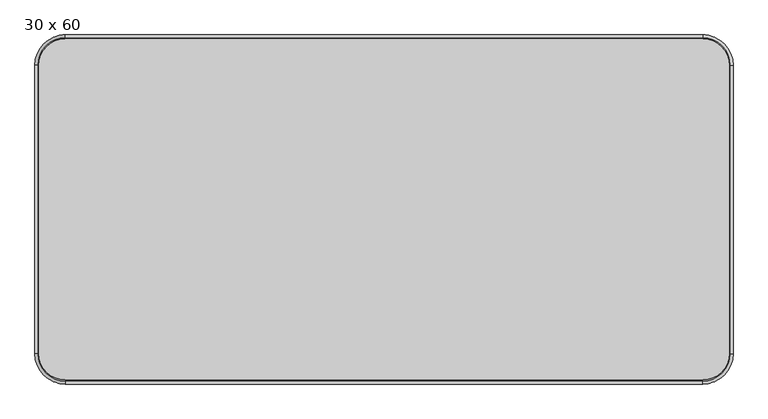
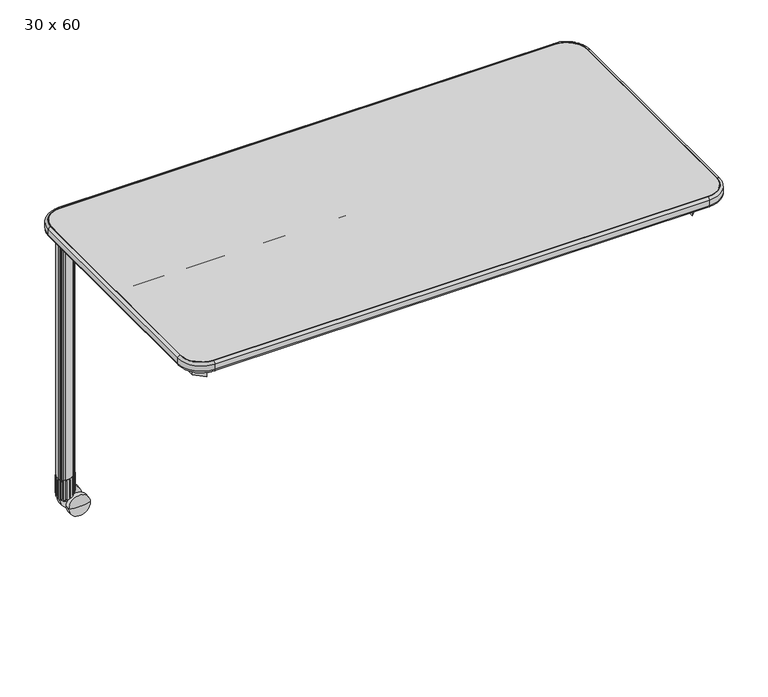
"""IFC4 building model written with IfcOpenShell, lengths in millimetres: furniture geometry, SmithSystem_AM_Desking_Education_Interchange_Student_Activity : 30 x 60."""

from ifc_helpers import new_model, si_unit, point, frame, frame_2d, origin, place, context, project, spatial, polyline, circle_curve, ellipse_curve, trimmed, segment, composite_curve, outline, extrude, source, transform, mapped, element, save
from ifc_brep_helpers import plane_surface, cylinder_surface, revolved_surface, advanced_brep


def furniture_30_x_60_a9b783f6(model_context):
    return source(origin(), model_context, "Body", "SolidModel", [
        advanced_brep(
        [(44.3181701, -75.4828432, 35.017382), (74.620827, -75.4828432, 35.017382), (104.9234839, -75.4828432, 35.017382), (74.620827, -93.8056302, 35.017382), (44.3181701, -88.7241133, 35.017382), (104.9234839, -88.7241133, 35.017382)],
        [
            (0, 1),
            (1, 2),
            (2, 0, circle_curve(frame((74.620827, -75.4828432, 35.017382), z_axis=(0.0, 1.0, 0.0), x_axis=(1.0000000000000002, 0.0, 0.0)), 30.3026569)),
            (0, 2, circle_curve(frame((74.620827, -75.4828432, 35.017382), z_axis=(0.0, 1.0, 0.0), x_axis=(1.0000000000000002, 0.0, 0.0)), 30.3026569)),
            (3, 4, circle_curve(frame((74.620827, -0.9128138, 35.017382), z_axis=(0.0, 0.0, -1.0000000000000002), x_axis=(0.0, 1.0, 0.0)), 92.8928164)),
            (4, 5, circle_curve(frame((74.620827, -88.7241133, 35.017382), z_axis=(0.0, -1.0, 0.0), x_axis=(1.0000000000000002, 0.0, 0.0)), 30.3026569)),
            (5, 3, circle_curve(frame((74.620827, -0.9128138, 35.017382), z_axis=(0.0, 0.0, -1.0000000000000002), x_axis=(0.0, 1.0, 0.0)), 92.8928164)),
            (5, 4, circle_curve(frame((74.620827, -88.7241133, 35.017382), z_axis=(0.0, -1.0, 0.0), x_axis=(1.0000000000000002, 0.0, 0.0)), 30.3026569)),
            (4, 0),
            (2, 5),
        ],
        [
            plane_surface(frame((74.620827, -75.4828432, 35.017382), z_axis=(0.0, 1.0, 0.0), x_axis=(1.0, 0.0, 0.0))),
            revolved_surface(trimmed(ellipse_curve(frame((74.620827, -0.9128138, 35.017382), z_axis=(0.0, 0.0, -1.0000000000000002), x_axis=(0.0, 1.0, 0.0)), 92.8928164, 92.8928164), [point((104.9234839, -88.7241133, 35.017382))], [point((74.620827, -93.8056302, 35.017382))], True, "CARTESIAN"), (74.620827, -75.4828432, 35.017382), (0.0, -1.0, 0.0)),
            cylinder_surface(frame((74.620827, -75.4828432, 35.017382), z_axis=(0.0, -1.0, 0.0), x_axis=(1.0000000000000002, 0.0, 0.0)), 30.3026569),
        ],
        [
            (0, [[1, 2, 3]]),
            (0, [[-2, -1, 4]]),
            (1, [[5, 6, 7]]),
            (1, [[-7, 8, -5]]),
            (2, [[9, -3, 10, -6]]),
            (2, [[-10, -4, -9, -8]]),
        ],
    ),
        advanced_brep(
        [(44.3181701, -44.8805061, 35.017382), (44.3181701, -31.639236, 35.017382), (104.9234839, -31.639236, 35.017382), (104.9234839, -44.8805061, 35.017382), (74.620827, -26.5577191, 35.017382), (74.620827, -44.8805061, 35.017382)],
        [
            (0, 1),
            (1, 2, circle_curve(frame((74.620827, -31.639236, 35.017382), z_axis=(0.0, -1.0, 0.0), x_axis=(1.0000000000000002, 0.0, 0.0)), 30.3026569)),
            (2, 3),
            (3, 0, circle_curve(frame((74.620827, -44.8805061, 35.017382), z_axis=(0.0, 1.0, 0.0), x_axis=(1.0000000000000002, 0.0, 0.0)), 30.3026569)),
            (2, 1, circle_curve(frame((74.620827, -31.639236, 35.017382), z_axis=(0.0, -1.0, 0.0), x_axis=(1.0000000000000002, 0.0, 0.0)), 30.3026569)),
            (0, 3, circle_curve(frame((74.620827, -44.8805061, 35.017382), z_axis=(0.0, 1.0, 0.0), x_axis=(1.0000000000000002, 0.0, 0.0)), 30.3026569)),
            (1, 4, circle_curve(frame((74.620827, -119.4505355, 35.017382), z_axis=(0.0, 0.0, -1.0000000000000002), x_axis=(0.0, 1.0, 0.0)), 92.8928164)),
            (4, 2, circle_curve(frame((74.620827, -119.4505355, 35.017382), z_axis=(0.0, 0.0, -1.0000000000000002), x_axis=(0.0, 1.0, 0.0)), 92.8928164)),
            (5, 0),
            (3, 5),
        ],
        [
            cylinder_surface(frame((74.620827, -75.4828432, 35.017382), z_axis=(0.0, -1.0, 0.0), x_axis=(1.0000000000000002, 0.0, 0.0)), 30.3026569),
            revolved_surface(trimmed(ellipse_curve(frame((74.620827, -119.4505355, 35.017382), z_axis=(0.0, 0.0, -1.0000000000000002), x_axis=(0.0, 1.0, 0.0)), 92.8928164, 92.8928164), [point((74.620827, -26.5577191, 35.017382))], [point((104.9234839, -31.639236, 35.017382))], True, "CARTESIAN"), (74.620827, -75.4828432, 35.017382), (0.0, -1.0, 0.0)),
            plane_surface(frame((74.620827, -44.8805061, 35.017382), z_axis=(0.0, -1.0, 0.0), x_axis=(1.0, 0.0, 0.0))),
        ],
        [
            (0, [[1, 2, 3, 4]]),
            (0, [[-3, 5, -1, 6]]),
            (1, [[7, 8, -2]]),
            (1, [[-8, -7, -5]]),
            (2, [[9, -4, 10]]),
            (2, [[-10, -6, -9]]),
        ],
    ),
        advanced_brep(
        [(51.3766004, -59.5614841, 82.55), (36.2549111, -44.4397948, 82.55), (66.4982897, -74.6831734, 82.55), (44.5409023, -52.725786, 44.141232), (51.3766004, -59.5614841, 44.141232), (58.2122984, -66.3971821, 44.141232), (44.5409023, -52.725786, 70.5739), (58.2122984, -66.3971821, 70.5739), (48.2776927, -56.4625764, 70.5739), (54.475508, -62.6603917, 70.5739), (48.2776927, -56.4625764, 72.4789), (54.475508, -62.6603917, 72.4789), (44.5409023, -52.725786, 72.4789), (58.2122984, -66.3971821, 72.4789), (44.5409023, -52.725786, 77.5589), (58.2122984, -66.3971821, 77.5589), (36.2549111, -44.4397948, 77.5589), (66.4982897, -74.6831734, 77.5589)],
        [
            (0, 1),
            (1, 2, circle_curve(frame((51.3766004, -59.5614841, 82.55), z_axis=(0.0, 0.0, 1.0), x_axis=(0.7071067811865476, -0.7071067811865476, 0.0)), 21.3852981)),
            (2, 0),
            (2, 1, circle_curve(frame((51.3766004, -59.5614841, 82.55), z_axis=(0.0, 0.0, 1.0), x_axis=(0.7071067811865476, -0.7071067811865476, 0.0)), 21.3852981)),
            (3, 4),
            (4, 5),
            (5, 3, circle_curve(frame((51.3766004, -59.5614841, 44.141232), z_axis=(0.0, 0.0, -1.0), x_axis=(0.7071067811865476, -0.7071067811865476, 0.0)), 9.6671369)),
            (3, 5, circle_curve(frame((51.3766004, -59.5614841, 44.141232), z_axis=(0.0, 0.0, -1.0), x_axis=(0.7071067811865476, -0.7071067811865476, 0.0)), 9.6671369)),
            (6, 3),
            (5, 7),
            (7, 6, circle_curve(frame((51.3766004, -59.5614841, 70.5739), z_axis=(0.0, 0.0, -1.0), x_axis=(0.7071067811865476, -0.7071067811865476, 0.0)), 9.6671369)),
            (6, 7, circle_curve(frame((51.3766004, -59.5614841, 70.5739), z_axis=(0.0, 0.0, -1.0), x_axis=(0.7071067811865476, -0.7071067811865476, 0.0)), 9.6671369)),
            (8, 6),
            (7, 9),
            (9, 8, circle_curve(frame((51.3766004, -59.5614841, 70.5739), z_axis=(0.0, 0.0, -1.0), x_axis=(0.7071067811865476, -0.7071067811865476, 0.0)), 4.3825172)),
            (8, 9, circle_curve(frame((51.3766004, -59.5614841, 70.5739), z_axis=(0.0, 0.0, -1.0), x_axis=(0.7071067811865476, -0.7071067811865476, 0.0)), 4.3825172)),
            (10, 8),
            (9, 11),
            (11, 10, circle_curve(frame((51.3766004, -59.5614841, 72.4789), z_axis=(0.0, 0.0, -1.0), x_axis=(0.7071067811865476, -0.7071067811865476, 0.0)), 4.3825172)),
            (10, 11, circle_curve(frame((51.3766004, -59.5614841, 72.4789), z_axis=(0.0, 0.0, -1.0), x_axis=(0.7071067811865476, -0.7071067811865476, 0.0)), 4.3825172)),
            (12, 10),
            (11, 13),
            (13, 12, circle_curve(frame((51.3766004, -59.5614841, 72.4789), z_axis=(0.0, 0.0, -1.0), x_axis=(0.7071067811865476, -0.7071067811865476, 0.0)), 9.6671369)),
            (12, 13, circle_curve(frame((51.3766004, -59.5614841, 72.4789), z_axis=(0.0, 0.0, -1.0), x_axis=(0.7071067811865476, -0.7071067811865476, 0.0)), 9.6671369)),
            (14, 12),
            (13, 15),
            (15, 14, circle_curve(frame((51.3766004, -59.5614841, 77.5589), z_axis=(0.0, 0.0, -1.0), x_axis=(0.7071067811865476, -0.7071067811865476, 0.0)), 9.6671369)),
            (14, 15, circle_curve(frame((51.3766004, -59.5614841, 77.5589), z_axis=(0.0, 0.0, -1.0), x_axis=(0.7071067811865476, -0.7071067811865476, 0.0)), 9.6671369)),
            (16, 14),
            (15, 17),
            (17, 16, circle_curve(frame((51.3766004, -59.5614841, 77.5589), z_axis=(0.0, 0.0, -1.0), x_axis=(0.7071067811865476, -0.7071067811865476, 0.0)), 21.3852981)),
            (16, 17, circle_curve(frame((51.3766004, -59.5614841, 77.5589), z_axis=(0.0, 0.0, -1.0), x_axis=(0.7071067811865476, -0.7071067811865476, 0.0)), 21.3852981)),
            (1, 16),
            (17, 2),
        ],
        [
            plane_surface(frame((51.3766004, -59.5614841, 82.55), z_axis=(0.0, 0.0, 1.0000000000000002), x_axis=(0.7071067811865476, -0.7071067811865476, 0.0))),
            plane_surface(frame((51.3766004, -59.5614841, 44.141232), z_axis=(0.0, 0.0, -1.0000000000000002), x_axis=(0.7071067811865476, -0.7071067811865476, 0.0))),
            cylinder_surface(frame((51.3766004, -59.5614841, 56.841232), z_axis=(0.0, 0.0, 1.0), x_axis=(0.7071067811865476, -0.7071067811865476, 0.0)), 9.6671369),
            plane_surface(frame((51.3766004, -59.5614841, 70.5739), z_axis=(0.0, 0.0, 1.0000000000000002), x_axis=(0.7071067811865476, -0.7071067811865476, 0.0))),
            cylinder_surface(frame((51.3766004, -59.5614841, 56.841232), z_axis=(0.0, 0.0, 1.0), x_axis=(0.7071067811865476, -0.7071067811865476, 0.0)), 4.3825172),
            plane_surface(frame((51.3766004, -59.5614841, 72.4789), z_axis=(0.0, 0.0, -1.0000000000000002), x_axis=(0.7071067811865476, -0.7071067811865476, 0.0))),
            plane_surface(frame((51.3766004, -59.5614841, 77.5589), z_axis=(0.0, 0.0, -1.0000000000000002), x_axis=(0.7071067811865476, -0.7071067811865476, 0.0))),
            cylinder_surface(frame((51.3766004, -59.5614841, 56.841232), z_axis=(0.0, 0.0, 1.0), x_axis=(0.7071067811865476, -0.7071067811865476, 0.0)), 21.3852981),
        ],
        [
            (0, [[1, 2, 3]]),
            (0, [[-3, 4, -1]]),
            (1, [[5, 6, 7]]),
            (1, [[-6, -5, 8]]),
            (2, [[9, -7, 10, 11]]),
            (2, [[-10, -8, -9, 12]]),
            (3, [[13, -11, 14, 15]]),
            (3, [[-14, -12, -13, 16]]),
            (4, [[17, -15, 18, 19]]),
            (4, [[-18, -16, -17, 20]]),
            (5, [[21, -19, 22, 23]]),
            (5, [[-22, -20, -21, 24]]),
            (2, [[25, -23, 26, 27]]),
            (2, [[-26, -24, -25, 28]]),
            (6, [[29, -27, 30, 31]]),
            (6, [[-30, -28, -29, 32]]),
            (7, [[33, -31, 34, -2]]),
            (7, [[-34, -32, -33, -4]]),
        ],
    ),
        extrude(outline(composite_curve([segment(polyline([(70.2314777, -71.2321565), (66.6393752, -74.824259), (63.0472728, -78.4163614)]), True, "CONTINUOUS"), segment(trimmed(circle_curve(frame_2d((40.0058161, -55.3749047)), 32.5855406), [point((63.0472728, -78.4163614))], [point((36.0346376, -87.7175576))], False, "CARTESIAN"), True, "CONTINUOUS"), segment(trimmed(circle_curve(frame_2d((38.4323677, -68.1896136)), 19.6745954), [point((36.0346376, -87.7175576))], [point((30.8816174, -86.3576041))], False, "CARTESIAN"), True, "CONTINUOUS"), segment(trimmed(circle_curve(frame_2d((34.3168711, -78.0919809)), 8.9510611), [point((30.8816174, -86.3576041))], [point((27.9875151, -84.4213369))], False, "CARTESIAN"), True, "CONTINUOUS"), segment(polyline([(27.9875151, -84.4213369), (27.2521313, -83.6859531), (26.5167476, -82.9505693)]), True, "CONTINUOUS"), segment(trimmed(circle_curve(frame_2d((32.8461036, -76.6212133)), 8.9510611), [point((26.5167476, -82.9505693))], [point((24.5804804, -80.056467))], False, "CARTESIAN"), True, "CONTINUOUS"), segment(trimmed(circle_curve(frame_2d((42.7484708, -72.5057168)), 19.6745954), [point((24.5804804, -80.056467))], [point((23.2205268, -74.9034468))], False, "CARTESIAN"), True, "CONTINUOUS"), segment(trimmed(circle_curve(frame_2d((55.5631798, -70.9322684)), 32.5855406), [point((23.2205268, -74.9034468))], [point((32.521723, -47.8908116))], False, "CARTESIAN"), True, "CONTINUOUS"), segment(polyline([(32.521723, -47.8908116), (36.1138255, -44.2987092), (39.7059279, -40.7066067)]), True, "CONTINUOUS"), segment(trimmed(circle_curve(frame_2d((62.7473847, -63.7480635)), 32.5855406), [point((39.7059279, -40.7066067))], [point((66.7185631, -31.4054105))], False, "CARTESIAN"), True, "CONTINUOUS"), segment(trimmed(circle_curve(frame_2d((64.3208331, -50.9333545)), 19.6745954), [point((66.7185631, -31.4054105))], [point((71.8715833, -32.7653641))], False, "CARTESIAN"), True, "CONTINUOUS"), segment(trimmed(circle_curve(frame_2d((68.4363296, -41.0309873)), 8.9510611), [point((71.8715833, -32.7653641))], [point((74.7656856, -34.7016313))], False, "CARTESIAN"), True, "CONTINUOUS"), segment(polyline([(74.7656856, -34.7016313), (75.5010694, -35.4370151), (76.2364532, -36.1723988)]), True, "CONTINUOUS"), segment(trimmed(circle_curve(frame_2d((69.9070972, -42.5017548)), 8.9510611), [point((76.2364532, -36.1723988))], [point((78.1727203, -39.0665011))], False, "CARTESIAN"), True, "CONTINUOUS"), segment(trimmed(circle_curve(frame_2d((60.0047299, -46.6172514)), 19.6745954), [point((78.1727203, -39.0665011))], [point((79.5326739, -44.2195213))], False, "CARTESIAN"), True, "CONTINUOUS"), segment(trimmed(circle_curve(frame_2d((47.190021, -48.1906998)), 32.5855406), [point((79.5326739, -44.2195213))], [point((70.2314777, -71.2321565))], False, "CARTESIAN"), True, "CONTINUOUS")], self_intersect=False)), frame((0.0, 0.0, 63.4997351), z_axis=(0.0, 0.0, 1.0), x_axis=(1.0, 0.0, 0.0)), (0.0, 0.0, 1.0), 59.42631),
        extrude(outline(composite_curve([segment(trimmed(circle_curve(frame_2d((36.1138255, -44.2987092)), 1.27), [point((35.2157999, -45.1967348))], [point((37.0118511, -43.4006836))], False, "CARTESIAN"), True, "CONTINUOUS"), segment(polyline([(37.0118511, -43.4006836), (36.1138255, -44.2987092), (35.2157999, -45.1967348)]), True, "CONTINUOUS")], self_intersect=False)), frame((0.0, 0.0, 67.2639757), z_axis=(0.0, 0.0, 1.0), x_axis=(1.0, 0.0, 0.0)), (0.0, 0.0, 1.0), 52.9554897),
        extrude(outline(composite_curve([segment(trimmed(circle_curve(frame_2d((27.2784407, -83.6596437)), 1.27), [point((28.1764663, -84.5576694))], [point((26.3804151, -82.7616181))], False, "CARTESIAN"), True, "CONTINUOUS"), segment(polyline([(26.3804151, -82.7616181), (27.2784407, -83.6596437), (28.1764663, -84.5576694)]), True, "CONTINUOUS")], self_intersect=False)), frame((0.0, 0.0, 67.2639757), z_axis=(0.0, 0.0, 1.0), x_axis=(1.0, 0.0, 0.0)), (0.0, 0.0, 1.0), 52.9554897),
        extrude(outline(composite_curve([segment(polyline([(76.3727856, -36.36135), (75.47476, -35.4633244), (74.5767344, -34.5652988)]), True, "CONTINUOUS"), segment(trimmed(circle_curve(frame_2d((75.47476, -35.4633244)), 1.27), [point((74.5767344, -34.5652988))], [point((76.3727856, -36.36135))], False, "CARTESIAN"), True, "CONTINUOUS")], self_intersect=False)), frame((0.0, 0.0, 67.2639757), z_axis=(0.0, 0.0, 1.0), x_axis=(1.0, 0.0, 0.0)), (0.0, 0.0, 1.0), 52.9554897),
        extrude(outline(composite_curve([segment(polyline([(66.874417, -31.4439485), (65.6084721, -31.3425404), (64.3425272, -31.2411324)]), True, "CONTINUOUS"), segment(trimmed(circle_curve(frame_2d((65.6084721, -31.3425404)), 1.27), [point((64.3425272, -31.2411324))], [point((66.874417, -31.4439485))], False, "CARTESIAN"), True, "CONTINUOUS")], self_intersect=False)), frame((0.0, 0.0, 67.2639757), z_axis=(0.0, 0.0, 1.0), x_axis=(1.0, 0.0, 0.0)), (0.0, 0.0, 1.0), 52.9554897),
        extrude(outline(composite_curve([segment(polyline([(55.7954927, -31.960326), (54.5655031, -32.2765941), (53.3355135, -32.5928623)]), True, "CONTINUOUS"), segment(trimmed(circle_curve(frame_2d((54.5655031, -32.2765941)), 1.27), [point((53.3355135, -32.5928623))], [point((55.7954927, -31.960326))], False, "CARTESIAN"), True, "CONTINUOUS")], self_intersect=False)), frame((0.0, 0.0, 67.2639757), z_axis=(0.0, 0.0, 1.0), x_axis=(1.0, 0.0, 0.0)), (0.0, 0.0, 1.0), 52.9554897),
        extrude(outline(composite_curve([segment(polyline([(45.4570451, -36.1581671), (44.409403, -36.8760432), (43.3617609, -37.5939193)]), True, "CONTINUOUS"), segment(trimmed(circle_curve(frame_2d((44.409403, -36.8760432)), 1.27), [point((43.3617609, -37.5939193))], [point((45.4570451, -36.1581671))], False, "CARTESIAN"), True, "CONTINUOUS")], self_intersect=False)), frame((0.0, 0.0, 67.2639757), z_axis=(0.0, 0.0, 1.0), x_axis=(1.0, 0.0, 0.0)), (0.0, 0.0, 1.0), 52.9554897),
        extrude(outline(composite_curve([segment(trimmed(circle_curve(frame_2d((23.1576567, -73.7933558)), 1.27), [point((23.2590648, -75.0593007))], [point((23.0562487, -72.5274109))], False, "CARTESIAN"), True, "CONTINUOUS"), segment(polyline([(23.0562487, -72.5274109), (23.1576567, -73.7933558), (23.2590648, -75.0593007)]), True, "CONTINUOUS")], self_intersect=False)), frame((0.0, 0.0, 67.2639757), z_axis=(0.0, 0.0, 1.0), x_axis=(1.0, 0.0, 0.0)), (0.0, 0.0, 1.0), 52.9554897),
        extrude(outline(composite_curve([segment(trimmed(circle_curve(frame_2d((24.0917104, -62.7503868)), 1.27), [point((23.7754423, -63.9803764))], [point((24.4079786, -61.5203972))], False, "CARTESIAN"), True, "CONTINUOUS"), segment(polyline([(24.4079786, -61.5203972), (24.0917104, -62.7503868), (23.7754423, -63.9803764)]), True, "CONTINUOUS")], self_intersect=False)), frame((0.0, 0.0, 67.2639757), z_axis=(0.0, 0.0, 1.0), x_axis=(1.0, 0.0, 0.0)), (0.0, 0.0, 1.0), 52.9554897),
        extrude(outline(composite_curve([segment(trimmed(circle_curve(frame_2d((28.6911595, -52.5942867)), 1.27), [point((27.9732834, -53.6419288))], [point((29.4090356, -51.5466446))], False, "CARTESIAN"), True, "CONTINUOUS"), segment(polyline([(29.4090356, -51.5466446), (28.6911595, -52.5942867), (27.9732834, -53.6419288)]), True, "CONTINUOUS")], self_intersect=False)), frame((0.0, 0.0, 67.2639757), z_axis=(0.0, 0.0, 1.0), x_axis=(1.0, 0.0, 0.0)), (0.0, 0.0, 1.0), 52.9554897),
        extrude(outline(composite_curve([segment(polyline([(65.7413496, -75.7222846), (66.6393752, -74.824259), (67.5374009, -73.9262333)]), True, "CONTINUOUS"), segment(trimmed(circle_curve(frame_2d((66.6393752, -74.824259)), 1.27), [point((67.5374009, -73.9262333))], [point((65.7413496, -75.7222846))], False, "CARTESIAN"), True, "CONTINUOUS")], self_intersect=False)), frame((0.0, 0.0, 67.2639757), z_axis=(0.0, 0.0, 1.0), x_axis=(1.0, 0.0, 0.0)), (0.0, 0.0, 1.0), 52.9554897),
        extrude(outline(composite_curve([segment(trimmed(circle_curve(frame_2d((79.595544, -45.3296123)), 1.27), [point((79.4941359, -44.0636675))], [point((79.696952, -46.5955572))], False, "CARTESIAN"), True, "CONTINUOUS"), segment(polyline([(79.696952, -46.5955572), (79.595544, -45.3296123), (79.4941359, -44.0636675)]), True, "CONTINUOUS")], self_intersect=False)), frame((0.0, 0.0, 67.2639757), z_axis=(0.0, 0.0, 1.0), x_axis=(1.0, 0.0, 0.0)), (0.0, 0.0, 1.0), 52.9554897),
        extrude(outline(composite_curve([segment(trimmed(circle_curve(frame_2d((78.6614903, -56.3725813)), 1.27), [point((78.9777584, -55.1425917))], [point((78.3452221, -57.602571))], False, "CARTESIAN"), True, "CONTINUOUS"), segment(polyline([(78.3452221, -57.602571), (78.6614903, -56.3725813), (78.9777584, -55.1425917)]), True, "CONTINUOUS")], self_intersect=False)), frame((0.0, 0.0, 67.2639757), z_axis=(0.0, 0.0, 1.0), x_axis=(1.0, 0.0, 0.0)), (0.0, 0.0, 1.0), 52.9554897),
        extrude(outline(composite_curve([segment(trimmed(circle_curve(frame_2d((74.0620412, -66.5286815)), 1.27), [point((74.7799173, -65.4810394))], [point((73.3441651, -67.5763235))], False, "CARTESIAN"), True, "CONTINUOUS"), segment(polyline([(73.3441651, -67.5763235), (74.0620412, -66.5286815), (74.7799173, -65.4810394)]), True, "CONTINUOUS")], self_intersect=False)), frame((0.0, 0.0, 67.2639757), z_axis=(0.0, 0.0, 1.0), x_axis=(1.0, 0.0, 0.0)), (0.0, 0.0, 1.0), 52.9554897),
        extrude(outline(composite_curve([segment(polyline([(35.8787838, -87.6790197), (37.1447286, -87.7804277), (38.4106735, -87.8818357)]), True, "CONTINUOUS"), segment(trimmed(circle_curve(frame_2d((37.1447286, -87.7804277)), 1.27), [point((38.4106735, -87.8818357))], [point((35.8787838, -87.6790197))], False, "CARTESIAN"), True, "CONTINUOUS")], self_intersect=False)), frame((0.0, 0.0, 67.2639757), z_axis=(0.0, 0.0, 1.0), x_axis=(1.0, 0.0, 0.0)), (0.0, 0.0, 1.0), 52.9554897),
        extrude(outline(composite_curve([segment(polyline([(46.957708, -87.1626422), (48.1876976, -86.846374), (49.4176872, -86.5301059)]), True, "CONTINUOUS"), segment(trimmed(circle_curve(frame_2d((48.1876976, -86.846374)), 1.27), [point((49.4176872, -86.5301059))], [point((46.957708, -87.1626422))], False, "CARTESIAN"), True, "CONTINUOUS")], self_intersect=False)), frame((0.0, 0.0, 67.2639757), z_axis=(0.0, 0.0, 1.0), x_axis=(1.0, 0.0, 0.0)), (0.0, 0.0, 1.0), 52.9554897),
        extrude(outline(composite_curve([segment(polyline([(57.2961557, -82.964801), (58.3437977, -82.2469249), (59.3914398, -81.5290489)]), True, "CONTINUOUS"), segment(trimmed(circle_curve(frame_2d((58.3437977, -82.2469249)), 1.27), [point((59.3914398, -81.5290489))], [point((57.2961557, -82.964801))], False, "CARTESIAN"), True, "CONTINUOUS")], self_intersect=False)), frame((0.0, 0.0, 67.2639757), z_axis=(0.0, 0.0, 1.0), x_axis=(1.0, 0.0, 0.0)), (0.0, 0.0, 1.0), 52.9554897),
        extrude(outline(composite_curve([segment(trimmed(circle_curve(frame_2d((62.7473847, -63.7480635)), 32.5855406), [point((39.7059279, -40.7066067))], [point((66.7185631, -31.4054105))], False, "CARTESIAN"), True, "CONTINUOUS"), segment(trimmed(circle_curve(frame_2d((64.3208331, -50.9333545)), 19.6745954), [point((66.7185631, -31.4054105))], [point((71.8715833, -32.7653641))], False, "CARTESIAN"), True, "CONTINUOUS"), segment(trimmed(circle_curve(frame_2d((68.4363296, -41.0309873)), 8.9510611), [point((71.8715833, -32.7653641))], [point((74.7656856, -34.7016313))], False, "CARTESIAN"), True, "CONTINUOUS"), segment(polyline([(74.7656856, -34.7016313), (75.5010694, -35.4370151), (76.2364532, -36.1723988)]), True, "CONTINUOUS"), segment(trimmed(circle_curve(frame_2d((69.9070972, -42.5017548)), 8.9510611), [point((76.2364532, -36.1723988))], [point((78.1727203, -39.0665011))], False, "CARTESIAN"), True, "CONTINUOUS"), segment(trimmed(circle_curve(frame_2d((60.0047299, -46.6172514)), 19.6745954), [point((78.1727203, -39.0665011))], [point((79.5326739, -44.2195213))], False, "CARTESIAN"), True, "CONTINUOUS"), segment(trimmed(circle_curve(frame_2d((47.190021, -48.1906998)), 32.5855406), [point((79.5326739, -44.2195213))], [point((70.2314777, -71.2321565))], False, "CARTESIAN"), True, "CONTINUOUS"), segment(polyline([(70.2314777, -71.2321565), (66.6393752, -74.824259), (63.0472728, -78.4163614)]), True, "CONTINUOUS"), segment(trimmed(circle_curve(frame_2d((40.0058161, -55.3749047)), 32.5855406), [point((63.0472728, -78.4163614))], [point((36.0346376, -87.7175576))], False, "CARTESIAN"), True, "CONTINUOUS"), segment(trimmed(circle_curve(frame_2d((38.4323677, -68.1896136)), 19.6745954), [point((36.0346376, -87.7175576))], [point((30.8816174, -86.3576041))], False, "CARTESIAN"), True, "CONTINUOUS"), segment(trimmed(circle_curve(frame_2d((34.3168711, -78.0919809)), 8.9510611), [point((30.8816174, -86.3576041))], [point((27.9875151, -84.4213369))], False, "CARTESIAN"), True, "CONTINUOUS"), segment(polyline([(27.9875151, -84.4213369), (27.2521313, -83.6859531), (26.5167476, -82.9505693)]), True, "CONTINUOUS"), segment(trimmed(circle_curve(frame_2d((32.8461036, -76.6212133)), 8.9510611), [point((26.5167476, -82.9505693))], [point((24.5804804, -80.056467))], False, "CARTESIAN"), True, "CONTINUOUS"), segment(trimmed(circle_curve(frame_2d((42.7484708, -72.5057168)), 19.6745954), [point((24.5804804, -80.056467))], [point((23.2205268, -74.9034468))], False, "CARTESIAN"), True, "CONTINUOUS"), segment(trimmed(circle_curve(frame_2d((55.5631798, -70.9322684)), 32.5855406), [point((23.2205268, -74.9034468))], [point((32.521723, -47.8908116))], False, "CARTESIAN"), True, "CONTINUOUS"), segment(polyline([(32.521723, -47.8908116), (36.1138255, -44.2987092), (39.7059279, -40.7066067)]), True, "CONTINUOUS")], self_intersect=False)), frame((0.0, 0.0, 122.9260451), z_axis=(0.0, 0.0, 1.0), x_axis=(1.0, 0.0, 0.0)), (0.0, 0.0, 1.0), 719.5839191),
        extrude(outline(polyline([(50.0797748, -85.1609527), (76.921403, -58.3193245), (80.2662632, -61.6641848), (53.4246351, -88.5058129), (50.0797748, -85.1609527)])), frame((0.0, 0.0, 786.4834421), z_axis=(0.0, 0.0, 1.0), x_axis=(1.0, 0.0, 0.0)), (0.0, 0.0, 1.0), 56.0265221),
        extrude(outline(polyline([(53.7381843, -88.1922637), (79.1384349, -62.7920131), (79.1384349, -699.2079869), (53.7381843, -673.8077363), (53.7381843, -88.1922637)])), frame((0.0, 0.0, 786.4834421), z_axis=(0.0, 0.0, 1.0), x_axis=(1.0, 0.0, 0.0)), (0.0, 0.0, 1.0), 57.997768),
        extrude(outline(polyline([(1470.2618157, -88.1922637), (1470.2618157, -673.8085636), (1444.8615651, -699.2088142), (1444.8615651, -62.7920131), (1470.2618157, -88.1922637)])), frame((0.0, 0.0, 786.4834421), z_axis=(0.0, 0.0, 1.0), x_axis=(1.0, 0.0, 0.0)), (0.0, 0.0, 1.0), 57.997768),
        extrude(outline(composite_curve([segment(polyline([(-405.9790347, 791.9364644), (-405.9790347, 790.0390874), (-415.5040301, 790.0390874)]), True, "CONTINUOUS"), segment(trimmed(circle_curve(frame_2d((-415.5040301, 793.2141094)), 3.175022), [point((-415.5040301, 790.0390874))], [point((-418.6790521, 793.2141094))], False, "CARTESIAN"), True, "CONTINUOUS"), segment(polyline([(-418.6790521, 793.2141094), (-418.6790521, 841.1792101)]), True, "CONTINUOUS"), segment(trimmed(circle_curve(frame_2d((-415.3770521, 841.1792101)), 3.302), [point((-418.6790521, 841.1792101))], [point((-415.3770521, 844.4812101))], False, "CARTESIAN"), True, "CONTINUOUS"), segment(polyline([(-415.3770521, 844.4812101), (-346.6229479, 844.4812101)]), True, "CONTINUOUS"), segment(trimmed(circle_curve(frame_2d((-346.6229479, 841.1792101)), 3.302), [point((-346.6229479, 844.4812101))], [point((-343.3209479, 841.1792101))], False, "CARTESIAN"), True, "CONTINUOUS"), segment(polyline([(-343.3209479, 841.1792101), (-343.3209479, 793.2141094)]), True, "CONTINUOUS"), segment(trimmed(circle_curve(frame_2d((-346.4959699, 793.2141094)), 3.175022), [point((-343.3209479, 793.2141094))], [point((-346.4959699, 790.0390874))], False, "CARTESIAN"), True, "CONTINUOUS"), segment(polyline([(-346.4959699, 790.0390874), (-356.0209653, 790.0390874), (-356.0209653, 791.9364644), (-346.4959699, 791.9364644)]), True, "CONTINUOUS"), segment(trimmed(circle_curve(frame_2d((-346.4959699, 793.2140799)), 1.2776155), [point((-346.4959699, 791.9364644))], [point((-345.2183543, 793.2140799))], True, "CARTESIAN"), True, "CONTINUOUS"), segment(polyline([(-345.2183543, 793.2140799), (-345.2183543, 841.2399641)]), True, "CONTINUOUS"), segment(trimmed(circle_curve(frame_2d((-346.4883543, 841.2399641)), 1.27), [point((-345.2183543, 841.2399641))], [point((-346.4883543, 842.5099641))], True, "CARTESIAN"), True, "CONTINUOUS"), segment(polyline([(-346.4883543, 842.5099641), (-415.5116457, 842.5099641)]), True, "CONTINUOUS"), segment(trimmed(circle_curve(frame_2d((-415.5116457, 841.2399641)), 1.27), [point((-415.5116457, 842.5099641))], [point((-416.7816457, 841.2399641))], True, "CARTESIAN"), True, "CONTINUOUS"), segment(polyline([(-416.7816457, 841.2399641), (-416.7816457, 793.2140799)]), True, "CONTINUOUS"), segment(trimmed(circle_curve(frame_2d((-415.5040301, 793.2140799)), 1.2776155), [point((-416.7816457, 793.2140799))], [point((-415.5040301, 791.9364644))], True, "CARTESIAN"), True, "CONTINUOUS"), segment(polyline([(-415.5040301, 791.9364644), (-405.9790347, 791.9364644)]), True, "CONTINUOUS")], self_intersect=False)), frame((79.1384349, 0.0, 0.0), z_axis=(1.0, 0.0, 0.0), x_axis=(0.0, 1.0, 0.0)), (0.0, 0.0, 1.0), 1365.7231302),
        extrude(outline(composite_curve([segment(polyline([(103.7568087, -559.9761036), (103.7568087, -724.3144586)]), True, "CONTINUOUS"), segment(trimmed(circle_curve(frame_2d((91.0568087, -724.3144586)), 12.7), [point((103.7568087, -724.3144586))], [point((91.0568087, -737.0144586))], False, "CARTESIAN"), True, "CONTINUOUS"), segment(polyline([(91.0568087, -737.0144586), (37.0817672, -737.0144586)]), True, "CONTINUOUS"), segment(trimmed(circle_curve(frame_2d((37.0817672, -724.3144586)), 12.7), [point((37.0817672, -737.0144586))], [point((24.3817672, -724.3144586))], False, "CARTESIAN"), True, "CONTINUOUS"), segment(polyline([(24.3817672, -724.3144586), (24.3817672, -559.9761036)]), True, "CONTINUOUS"), segment(trimmed(circle_curve(frame_2d((37.0817672, -559.9761036)), 12.7), [point((24.3817672, -559.9761036))], [point((37.0817672, -547.2761036))], False, "CARTESIAN"), True, "CONTINUOUS"), segment(polyline([(37.0817672, -547.2761036), (91.0568087, -547.2761036)]), True, "CONTINUOUS"), segment(trimmed(circle_curve(frame_2d((91.0568087, -559.9761036)), 12.7), [point((91.0568087, -547.2761036))], [point((103.7568087, -559.9761036))], False, "CARTESIAN"), True, "CONTINUOUS")], self_intersect=False)), frame((0.0, 0.0, 842.5099641), z_axis=(0.0, 0.0, 1.0), x_axis=(1.0, 0.0, 0.0)), (0.0, 0.0, 1.0), 1.971246),
        extrude(outline(composite_curve([segment(polyline([(103.7568087, -37.6941247), (103.7568087, -202.0324797)]), True, "CONTINUOUS"), segment(trimmed(circle_curve(frame_2d((91.0568087, -202.0324797)), 12.7), [point((103.7568087, -202.0324797))], [point((91.0568087, -214.7324797))], False, "CARTESIAN"), True, "CONTINUOUS"), segment(polyline([(91.0568087, -214.7324797), (37.0817672, -214.7324797)]), True, "CONTINUOUS"), segment(trimmed(circle_curve(frame_2d((37.0817672, -202.0324797)), 12.7), [point((37.0817672, -214.7324797))], [point((24.3817672, -202.0324797))], False, "CARTESIAN"), True, "CONTINUOUS"), segment(polyline([(24.3817672, -202.0324797), (24.3817672, -37.6941247)]), True, "CONTINUOUS"), segment(trimmed(circle_curve(frame_2d((37.0817672, -37.6941247)), 12.7), [point((24.3817672, -37.6941247))], [point((37.0817672, -24.9941247))], False, "CARTESIAN"), True, "CONTINUOUS"), segment(polyline([(37.0817672, -24.9941247), (91.0568087, -24.9941247)]), True, "CONTINUOUS"), segment(trimmed(circle_curve(frame_2d((91.0568087, -37.6941247)), 12.7), [point((91.0568087, -24.9941247))], [point((103.7568087, -37.6941247))], False, "CARTESIAN"), True, "CONTINUOUS")], self_intersect=False)), frame((0.0, 0.0, 842.5099641), z_axis=(0.0, 0.0, 1.0), x_axis=(1.0, 0.0, 0.0)), (0.0, 0.0, 1.0), 1.971246),
        extrude(outline(composite_curve([segment(trimmed(circle_curve(frame_2d((1432.9431913, -559.9761036)), 12.7), [point((1420.2431913, -559.9761036))], [point((1432.9431913, -547.2761036))], False, "CARTESIAN"), True, "CONTINUOUS"), segment(polyline([(1432.9431913, -547.2761036), (1486.9182328, -547.2761036)]), True, "CONTINUOUS"), segment(trimmed(circle_curve(frame_2d((1486.9182328, -559.9761036)), 12.7), [point((1486.9182328, -547.2761036))], [point((1499.6182328, -559.9761036))], False, "CARTESIAN"), True, "CONTINUOUS"), segment(polyline([(1499.6182328, -559.9761036), (1499.6182328, -724.3144586)]), True, "CONTINUOUS"), segment(trimmed(circle_curve(frame_2d((1486.9182328, -724.3144586)), 12.7), [point((1499.6182328, -724.3144586))], [point((1486.9182328, -737.0144586))], False, "CARTESIAN"), True, "CONTINUOUS"), segment(polyline([(1486.9182328, -737.0144586), (1432.9431913, -737.0144586)]), True, "CONTINUOUS"), segment(trimmed(circle_curve(frame_2d((1432.9431913, -724.3144586)), 12.7), [point((1432.9431913, -737.0144586))], [point((1420.2431913, -724.3144586))], False, "CARTESIAN"), True, "CONTINUOUS"), segment(polyline([(1420.2431913, -724.3144586), (1420.2431913, -559.9761036)]), True, "CONTINUOUS")], self_intersect=False)), frame((0.0, 0.0, 842.5099641), z_axis=(0.0, 0.0, 1.0), x_axis=(1.0, 0.0, 0.0)), (0.0, 0.0, 1.0), 1.971246),
        extrude(outline(composite_curve([segment(trimmed(circle_curve(frame_2d((1432.9431913, -37.6941247)), 12.7), [point((1420.2431913, -37.6941247))], [point((1432.9431913, -24.9941247))], False, "CARTESIAN"), True, "CONTINUOUS"), segment(polyline([(1432.9431913, -24.9941247), (1486.9182328, -24.9941247)]), True, "CONTINUOUS"), segment(trimmed(circle_curve(frame_2d((1486.9182328, -37.6941247)), 12.7), [point((1486.9182328, -24.9941247))], [point((1499.6182328, -37.6941247))], False, "CARTESIAN"), True, "CONTINUOUS"), segment(polyline([(1499.6182328, -37.6941247), (1499.6182328, -202.0324797)]), True, "CONTINUOUS"), segment(trimmed(circle_curve(frame_2d((1486.9182328, -202.0324797)), 12.7), [point((1499.6182328, -202.0324797))], [point((1486.9182328, -214.7324797))], False, "CARTESIAN"), True, "CONTINUOUS"), segment(polyline([(1486.9182328, -214.7324797), (1432.9431913, -214.7324797)]), True, "CONTINUOUS"), segment(trimmed(circle_curve(frame_2d((1432.9431913, -202.0324797)), 12.7), [point((1432.9431913, -214.7324797))], [point((1420.2431913, -202.0324797))], False, "CARTESIAN"), True, "CONTINUOUS"), segment(polyline([(1420.2431913, -202.0324797), (1420.2431913, -37.6941247)]), True, "CONTINUOUS")], self_intersect=False)), frame((0.0, 0.0, 842.5099641), z_axis=(0.0, 0.0, 1.0), x_axis=(1.0, 0.0, 0.0)), (0.0, 0.0, 1.0), 1.971246),
        extrude(outline(composite_curve([segment(polyline([(1457.96, -753.1108295), (66.04, -753.1108295)]), True, "CONTINUOUS"), segment(trimmed(circle_curve(frame_2d((66.04, -695.9608295)), 57.15), [point((66.04, -753.1108295))], [point((8.89, -695.9608295))], False, "CARTESIAN"), True, "CONTINUOUS"), segment(polyline([(8.89, -695.9608295), (8.89, -66.04)]), True, "CONTINUOUS"), segment(trimmed(circle_curve(frame_2d((66.04, -66.04)), 57.15), [point((8.89, -66.04))], [point((66.04, -8.89))], False, "CARTESIAN"), True, "CONTINUOUS"), segment(polyline([(66.04, -8.89), (1457.96, -8.89)]), True, "CONTINUOUS"), segment(trimmed(circle_curve(frame_2d((1457.96, -66.04)), 57.15), [point((1457.96, -8.89))], [point((1515.11, -66.04))], False, "CARTESIAN"), True, "CONTINUOUS"), segment(polyline([(1515.11, -66.04), (1515.11, -695.9608295)]), True, "CONTINUOUS"), segment(trimmed(circle_curve(frame_2d((1457.96, -695.9608295)), 57.15), [point((1515.11, -695.9608295))], [point((1457.96, -753.1108295))], False, "CARTESIAN"), True, "CONTINUOUS")], self_intersect=False)), frame((0.0, 0.0, 844.4812101), z_axis=(0.0, 0.0, 1.0), x_axis=(1.0, 0.0, 0.0)), (0.0, 0.0, 1.0), 28.60385),
        advanced_brep(
        [(66.04, 0.0, 850.8312101), (1457.96, 0.0, 850.8312101), (1457.96, -6.35, 844.4812101), (66.04, -6.35, 844.4812101), (66.04, 0.0, 866.7350601), (1457.96, 0.0, 866.7350601), (66.04, -6.35, 873.0850601), (1457.96, -6.35, 873.0850601), (66.04, -8.89, 844.4812101), (1457.96, -8.89, 844.4812101), (1457.96, -8.89, 873.0850601), (66.04, -8.89, 873.0850601), (1524.0, -66.04, 850.8312101), (1517.65, -66.04, 844.4812101), (1524.0, -66.04, 866.7350601), (1517.65, -66.04, 873.0850601), (1515.11, -66.04, 844.4812101), (1515.11, -66.04, 873.0850601), (1524.0, -695.9608295, 850.8312101), (1517.65, -695.9608295, 844.4812101), (1524.0, -695.9608295, 866.7350601), (1517.65, -695.9608295, 873.0850601), (1515.11, -695.9608295, 844.4812101), (1515.11, -695.9608295, 873.0850601), (1457.96, -762.0008295, 850.8312101), (1457.96, -755.6508295, 844.4812101), (1457.96, -762.0008295, 866.7350601), (1457.96, -755.6508295, 873.0850601), (1457.96, -753.1108295, 844.4812101), (1457.96, -753.1108295, 873.0850601), (0.0, -695.9608295, 850.8312101), (6.35, -695.9608295, 844.4812101), (66.04, -755.6508295, 844.4812101), (66.04, -762.0008295, 850.8312101), (0.0, -695.9608295, 866.7350601), (66.04, -762.0008295, 866.7350601), (6.35, -695.9608295, 873.0850601), (66.04, -755.6508295, 873.0850601), (8.89, -695.9608295, 844.4812101), (8.89, -695.9608295, 873.0850601), (66.04, -753.1108295, 873.0850601), (66.04, -753.1108295, 844.4812101), (0.0, -66.04, 850.8312101), (6.35, -66.04, 844.4812101), (0.0, -66.04, 866.7350601), (6.35, -66.04, 873.0850601), (8.89, -66.04, 844.4812101), (8.89, -66.04, 873.0850601)],
        [
            (0, 1),
            (1, 2, circle_curve(frame((1457.96, -6.35, 850.8312101), z_axis=(-1.0, 0.0, 0.0), x_axis=(0.0, -1.0, 0.0)), 6.35)),
            (2, 3),
            (3, 0, circle_curve(frame((66.04, -6.35, 850.8312101), z_axis=(1.0, 0.0, 0.0), x_axis=(0.0, -1.0, 0.0)), 6.35)),
            (4, 5),
            (5, 1),
            (0, 4),
            (6, 7),
            (7, 5, circle_curve(frame((1457.96, -6.35, 866.7350601), z_axis=(-1.0, 0.0, 0.0), x_axis=(0.0, -1.0, 0.0)), 6.35)),
            (4, 6, circle_curve(frame((66.04, -6.35, 866.7350601), z_axis=(1.0, 0.0, 0.0), x_axis=(0.0, -1.0, 0.0)), 6.35)),
            (8, 9),
            (9, 10),
            (10, 11),
            (11, 8),
            (12, 13, circle_curve(frame((1517.65, -66.04, 850.8312101), z_axis=(0.0, 1.0, 0.0), x_axis=(-1.0, 0.0, 0.0)), 6.35)),
            (13, 2, circle_curve(frame((1457.96, -66.04, 844.4812101), z_axis=(0.0, 0.0, 1.0), x_axis=(0.0, 1.0, 0.0)), 59.69)),
            (1, 12, circle_curve(frame((1457.96, -66.04, 850.8312101), z_axis=(0.0, 0.0, -1.0), x_axis=(0.0, 1.0, 0.0)), 66.04)),
            (14, 12),
            (5, 14, circle_curve(frame((1457.96, -66.04, 866.7350601), z_axis=(0.0, 0.0, -1.0), x_axis=(0.0, 1.0, 0.0)), 66.04)),
            (15, 14, circle_curve(frame((1517.65, -66.04, 866.7350601), z_axis=(0.0, 1.0, 0.0), x_axis=(-1.0, 0.0, 0.0)), 6.35)),
            (7, 15, circle_curve(frame((1457.96, -66.04, 873.0850601), z_axis=(0.0, 0.0, -1.0), x_axis=(0.0, 1.0, 0.0)), 59.69)),
            (16, 17),
            (17, 10, circle_curve(frame((1457.96, -66.04, 873.0850601), z_axis=(0.0, 0.0, 1.0), x_axis=(0.0, 1.0, 0.0)), 57.15)),
            (9, 16, circle_curve(frame((1457.96, -66.04, 844.4812101), z_axis=(0.0, 0.0, -1.0), x_axis=(0.0, 1.0, 0.0)), 57.15)),
            (12, 18),
            (18, 19, circle_curve(frame((1517.65, -695.9608295, 850.8312101), z_axis=(0.0, 1.0, 0.0), x_axis=(-1.0, 0.0, 0.0)), 6.35)),
            (19, 13),
            (14, 20),
            (20, 18),
            (15, 21),
            (21, 20, circle_curve(frame((1517.65, -695.9608295, 866.7350601), z_axis=(0.0, 1.0, 0.0), x_axis=(-1.0, 0.0, 0.0)), 6.35)),
            (16, 22),
            (22, 23),
            (23, 17),
            (24, 25, circle_curve(frame((1457.96, -755.6508295, 850.8312101), z_axis=(1.0, 0.0, 0.0), x_axis=(0.0, 1.0, 0.0)), 6.35)),
            (25, 19, circle_curve(frame((1457.96, -695.9608295, 844.4812101), z_axis=(0.0, 0.0, 1.0), x_axis=(1.0, 0.0, 0.0)), 59.69)),
            (18, 24, circle_curve(frame((1457.96, -695.9608295, 850.8312101), z_axis=(0.0, 0.0, -1.0), x_axis=(1.0, 0.0, 0.0)), 66.04)),
            (26, 24),
            (20, 26, circle_curve(frame((1457.96, -695.9608295, 866.7350601), z_axis=(0.0, 0.0, -1.0), x_axis=(1.0, 0.0, 0.0)), 66.04)),
            (27, 26, circle_curve(frame((1457.96, -755.6508295, 866.7350601), z_axis=(1.0, 0.0, 0.0), x_axis=(0.0, 1.0, 0.0)), 6.35)),
            (21, 27, circle_curve(frame((1457.96, -695.9608295, 873.0850601), z_axis=(0.0, 0.0, -1.0), x_axis=(1.0, 0.0, 0.0)), 59.69)),
            (28, 29),
            (29, 23, circle_curve(frame((1457.96, -695.9608295, 873.0850601), z_axis=(0.0, 0.0, 1.0), x_axis=(1.0, 0.0, 0.0)), 57.15)),
            (22, 28, circle_curve(frame((1457.96, -695.9608295, 844.4812101), z_axis=(0.0, 0.0, -1.0), x_axis=(1.0, 0.0, 0.0)), 57.15)),
            (30, 31, circle_curve(frame((6.35, -695.9608295, 850.8312101), z_axis=(0.0, -1.0, 0.0), x_axis=(1.0, 0.0, 0.0)), 6.35)),
            (31, 32, circle_curve(frame((66.04, -695.9608295, 844.4812101), z_axis=(0.0, 0.0, 1.0), x_axis=(0.0, -1.0, 0.0)), 59.69)),
            (32, 33, circle_curve(frame((66.04, -755.6508295, 850.8312101), z_axis=(-1.0, 0.0, 0.0), x_axis=(0.0, 1.0, 0.0)), 6.35)),
            (33, 30, circle_curve(frame((66.04, -695.9608295, 850.8312101), z_axis=(0.0, 0.0, -1.0), x_axis=(0.0, -1.0, 0.0)), 66.04)),
            (34, 30),
            (33, 35),
            (35, 34, circle_curve(frame((66.04, -695.9608295, 866.7350601), z_axis=(0.0, 0.0, -1.0), x_axis=(0.0, -1.0, 0.0)), 66.04)),
            (36, 34, circle_curve(frame((6.35, -695.9608295, 866.7350601), z_axis=(0.0, -1.0, 0.0), x_axis=(1.0, 0.0, 0.0)), 6.35)),
            (35, 37, circle_curve(frame((66.04, -755.6508295, 866.7350601), z_axis=(-1.0, 0.0, 0.0), x_axis=(0.0, 1.0, 0.0)), 6.35)),
            (37, 36, circle_curve(frame((66.04, -695.9608295, 873.0850601), z_axis=(0.0, 0.0, -1.0), x_axis=(0.0, -1.0, 0.0)), 59.69)),
            (38, 39),
            (39, 40, circle_curve(frame((66.04, -695.9608295, 873.0850601), z_axis=(0.0, 0.0, 1.0), x_axis=(0.0, -1.0, 0.0)), 57.15)),
            (40, 41),
            (41, 38, circle_curve(frame((66.04, -695.9608295, 844.4812101), z_axis=(0.0, 0.0, -1.0), x_axis=(0.0, -1.0, 0.0)), 57.15)),
            (30, 42),
            (42, 43, circle_curve(frame((6.35, -66.04, 850.8312101), z_axis=(0.0, -1.0, 0.0), x_axis=(1.0, 0.0, 0.0)), 6.35)),
            (43, 31),
            (34, 44),
            (44, 42),
            (36, 45),
            (45, 44, circle_curve(frame((6.35, -66.04, 866.7350601), z_axis=(0.0, -1.0, 0.0), x_axis=(1.0, 0.0, 0.0)), 6.35)),
            (38, 46),
            (46, 47),
            (47, 39),
            (3, 43, circle_curve(frame((66.04, -66.04, 844.4812101), z_axis=(0.0, 0.0, 1.0), x_axis=(-1.0, 0.0, 0.0)), 59.69)),
            (42, 0, circle_curve(frame((66.04, -66.04, 850.8312101), z_axis=(0.0, 0.0, -1.0), x_axis=(-1.0, 0.0, 0.0)), 66.04)),
            (44, 4, circle_curve(frame((66.04, -66.04, 866.7350601), z_axis=(0.0, 0.0, -1.0), x_axis=(-1.0, 0.0, 0.0)), 66.04)),
            (45, 6, circle_curve(frame((66.04, -66.04, 873.0850601), z_axis=(0.0, 0.0, -1.0), x_axis=(-1.0, 0.0, 0.0)), 59.69)),
            (11, 47, circle_curve(frame((66.04, -66.04, 873.0850601), z_axis=(0.0, 0.0, 1.0), x_axis=(-1.0, 0.0, 0.0)), 57.15)),
            (46, 8, circle_curve(frame((66.04, -66.04, 844.4812101), z_axis=(0.0, 0.0, -1.0), x_axis=(-1.0, 0.0, 0.0)), 57.15)),
            (25, 32),
            (41, 28),
            (24, 33),
            (26, 35),
            (27, 37),
            (29, 40),
        ],
        [
            cylinder_surface(frame((66.04, -6.35, 850.8312101), z_axis=(-1.0, 0.0, 0.0), x_axis=(0.0, -1.0, 0.0)), 6.35),
            plane_surface(frame((66.04, 0.0, 850.8312101), z_axis=(0.0, 1.0, 0.0), x_axis=(1.0, 0.0, 0.0))),
            cylinder_surface(frame((66.04, -6.35, 866.7350601), z_axis=(-1.0, 0.0, 0.0), x_axis=(0.0, -1.0, 0.0)), 6.35),
            plane_surface(frame((66.04, -8.89, 873.0850601), z_axis=(0.0, -1.0, 0.0), x_axis=(1.0, 0.0, 0.0))),
            revolved_surface(trimmed(ellipse_curve(frame((1457.96, -6.35, 850.8312101), z_axis=(1.0, 0.0, 0.0), x_axis=(0.0, -1.0, 0.0)), 6.35, 6.35), [point((1457.96, -6.35, 844.4812101))], [point((1457.96, 0.0, 850.8312101))], True, "CARTESIAN"), (1457.96, -66.04, 0.0), (0.0, 0.0, 1.0)),
            cylinder_surface(frame((1457.96, -66.04, 0.0), z_axis=(0.0, 0.0, 1.0), x_axis=(0.0, 1.0, 0.0)), 66.04),
            revolved_surface(trimmed(ellipse_curve(frame((1457.96, -6.35, 866.7350601), z_axis=(1.0, 0.0, 0.0), x_axis=(0.0, -1.0, 0.0)), 6.35, 6.35), [point((1457.96, 0.0, 866.7350601))], [point((1457.96, -6.35, 873.0850601))], True, "CARTESIAN"), (1457.96, -66.04, 0.0), (0.0, 0.0, 1.0)),
            revolved_surface(polyline([(1457.96, -8.890000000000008, 873.0850601), (1457.96, -8.890000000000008, 844.4812101)]), (1457.96, -66.04, 0.0), (0.0, 0.0, 1.0)),
            cylinder_surface(frame((1517.65, -66.04, 850.8312101), z_axis=(0.0, 1.0, 0.0), x_axis=(-1.0, 0.0, 0.0)), 6.35),
            plane_surface(frame((1524.0, -66.04, 850.8312101), z_axis=(1.0, 0.0, 0.0), x_axis=(0.0, -1.0, 0.0))),
            cylinder_surface(frame((1517.65, -66.04, 866.7350601), z_axis=(0.0, 1.0, 0.0), x_axis=(-1.0, 0.0, 0.0)), 6.35),
            plane_surface(frame((1515.11, -66.04, 873.0850601), z_axis=(-1.0, 0.0, 0.0), x_axis=(0.0, -1.0, 0.0))),
            revolved_surface(trimmed(ellipse_curve(frame((1517.65, -695.9608295, 850.8312101), z_axis=(0.0, -1.0, 0.0), x_axis=(-1.0, 0.0, 0.0)), 6.35, 6.35), [point((1517.65, -695.9608295, 844.4812101))], [point((1524.0, -695.9608295, 850.8312101))], True, "CARTESIAN"), (1457.96, -695.9608295, 0.0), (0.0, 0.0, 1.0)),
            cylinder_surface(frame((1457.96, -695.9608295, 0.0), z_axis=(0.0, 0.0, 1.0), x_axis=(1.0, 0.0, 0.0)), 66.04),
            revolved_surface(trimmed(ellipse_curve(frame((1517.65, -695.9608295, 866.7350601), z_axis=(0.0, -1.0, 0.0), x_axis=(-1.0, 0.0, 0.0)), 6.35, 6.35), [point((1524.0, -695.9608295, 866.7350601))], [point((1517.65, -695.9608295, 873.0850601))], True, "CARTESIAN"), (1457.96, -695.9608295, 0.0), (0.0, 0.0, 1.0)),
            revolved_surface(polyline([(1515.1100000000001, -695.9608295, 873.0850601), (1515.1100000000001, -695.9608295, 844.4812101)]), (1457.96, -695.9608295, 0.0), (0.0, 0.0, 1.0)),
            revolved_surface(trimmed(ellipse_curve(frame((66.04, -755.6508295, 850.8312101), z_axis=(-1.0, 0.0, 0.0), x_axis=(0.0, 1.0, 0.0)), 6.35, 6.35), [point((66.04, -755.6508295, 844.4812101))], [point((66.04, -762.0008295, 850.8312101))], True, "CARTESIAN"), (66.04, -695.9608295, 0.0), (0.0, 0.0, 1.0)),
            cylinder_surface(frame((66.04, -695.9608295, 0.0), z_axis=(0.0, 0.0, 1.0), x_axis=(0.0, -1.0, 0.0)), 66.04),
            revolved_surface(trimmed(ellipse_curve(frame((66.04, -755.6508295, 866.7350601), z_axis=(-1.0, 0.0, 0.0), x_axis=(0.0, 1.0, 0.0)), 6.35, 6.35), [point((66.04, -762.0008295, 866.7350601))], [point((66.04, -755.6508295, 873.0850601))], True, "CARTESIAN"), (66.04, -695.9608295, 0.0), (0.0, 0.0, 1.0)),
            revolved_surface(polyline([(66.04, -753.1108295, 873.0850601), (66.04, -753.1108295, 844.4812101)]), (66.04, -695.9608295, 0.0), (0.0, 0.0, 1.0)),
            cylinder_surface(frame((6.35, -695.9608295, 850.8312101), z_axis=(0.0, -1.0, 0.0), x_axis=(1.0, 0.0, 0.0)), 6.35),
            plane_surface(frame((0.0, -695.9608295, 850.8312101), z_axis=(-1.0, 0.0, 0.0), x_axis=(0.0, 1.0, 0.0))),
            cylinder_surface(frame((6.35, -695.9608295, 866.7350601), z_axis=(0.0, -1.0, 0.0), x_axis=(1.0, 0.0, 0.0)), 6.35),
            plane_surface(frame((8.89, -695.9608295, 873.0850601), z_axis=(1.0, 0.0, 0.0), x_axis=(0.0, 1.0, 0.0))),
            revolved_surface(trimmed(ellipse_curve(frame((6.35, -66.04, 850.8312101), z_axis=(0.0, 1.0, 0.0), x_axis=(1.0, 0.0, 0.0)), 6.35, 6.35), [point((6.35, -66.04, 844.4812101))], [point((0.0, -66.04, 850.8312101))], True, "CARTESIAN"), (66.04, -66.04, 0.0), (0.0, 0.0, 1.0)),
            cylinder_surface(frame((66.04, -66.04, 0.0), z_axis=(0.0, 0.0, 1.0), x_axis=(-1.0, 0.0, 0.0)), 66.04),
            revolved_surface(trimmed(ellipse_curve(frame((6.35, -66.04, 866.7350601), z_axis=(0.0, 1.0, 0.0), x_axis=(1.0, 0.0, 0.0)), 6.35, 6.35), [point((0.0, -66.04, 866.7350601))], [point((6.35, -66.04, 873.0850601))], True, "CARTESIAN"), (66.04, -66.04, 0.0), (0.0, 0.0, 1.0)),
            revolved_surface(polyline([(8.890000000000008, -66.04, 873.0850601), (8.890000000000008, -66.04, 844.4812101)]), (66.04, -66.04, 0.0), (0.0, 0.0, 1.0)),
            plane_surface(frame((1457.96, -753.1108295, 844.4812101), z_axis=(0.0, 0.0, -1.0), x_axis=(-1.0, 0.0, 0.0))),
            cylinder_surface(frame((1457.96, -755.6508295, 850.8312101), z_axis=(1.0, 0.0, 0.0), x_axis=(0.0, 1.0, 0.0)), 6.35),
            plane_surface(frame((1457.96, -762.0008295, 850.8312101), z_axis=(0.0, -1.0, 0.0), x_axis=(-1.0, 0.0, 0.0))),
            cylinder_surface(frame((1457.96, -755.6508295, 866.7350601), z_axis=(1.0, 0.0, 0.0), x_axis=(0.0, 1.0, 0.0)), 6.35),
            plane_surface(frame((1457.96, -755.6508295, 873.0850601), z_axis=(0.0, 0.0, 1.0), x_axis=(-1.0, 0.0, 0.0))),
            plane_surface(frame((1457.96, -753.1108295, 873.0850601), z_axis=(0.0, 1.0, 0.0), x_axis=(-1.0, 0.0, 0.0))),
        ],
        [
            (0, [[1, 2, 3, 4]]),
            (1, [[5, 6, -1, 7]]),
            (2, [[8, 9, -5, 10]]),
            (3, [[11, 12, 13, 14]]),
            (4, [[15, 16, -2, 17]]),
            (5, [[18, -17, -6, 19]]),
            (6, [[20, -19, -9, 21]]),
            (7, [[22, 23, -12, 24]]),
            (8, [[25, 26, 27, -15]]),
            (9, [[28, 29, -25, -18]]),
            (10, [[30, 31, -28, -20]]),
            (11, [[32, 33, 34, -22]]),
            (12, [[35, 36, -26, 37]]),
            (13, [[38, -37, -29, 39]]),
            (14, [[40, -39, -31, 41]]),
            (15, [[42, 43, -33, 44]]),
            (16, [[45, 46, 47, 48]]),
            (17, [[49, -48, 50, 51]]),
            (18, [[52, -51, 53, 54]]),
            (19, [[55, 56, 57, 58]]),
            (20, [[59, 60, 61, -45]]),
            (21, [[62, 63, -59, -49]]),
            (22, [[64, 65, -62, -52]]),
            (23, [[66, 67, 68, -55]]),
            (24, [[-4, 69, -60, 70]]),
            (25, [[-7, -70, -63, 71]]),
            (26, [[-10, -71, -65, 72]]),
            (27, [[-14, 73, -67, 74]]),
            (28, [[-46, -61, -69, -3, -16, -27, -36, 75], [-58, 76, -44, -32, -24, -11, -74, -66]]),
            (29, [[77, -47, -75, -35]]),
            (30, [[78, -50, -77, -38]]),
            (31, [[79, -53, -78, -40]]),
            (32, [[-54, -79, -41, -30, -21, -8, -72, -64], [-56, -68, -73, -13, -23, -34, -43, 80]]),
            (33, [[-76, -57, -80, -42]]),
        ],
    ),
    ])


if __name__ == "__main__":
    model = new_model("IFC4")
    model_context = context("Model", 3, world=origin())
    ifc_project = project(units=[si_unit("LENGTHUNIT", "METRE", prefix="MILLI")], contexts=[model_context])
    site = spatial("IfcSite", under=ifc_project)
    building = spatial("IfcBuilding", under=site)
    placement = place(None, origin())
    furniture_30_x_60_shape = furniture_30_x_60_a9b783f6(model_context)
    element("IfcFurniture", 1, ObjectType="SmithSystem_AM_Desking_Education_Interchange_Student_Activity : 30 x 60", at=placement, inside=building, context=model_context, shape_type="MappedRepresentation", body=[
        mapped(furniture_30_x_60_shape, transform((0.0, 0.0, 0.0), x_axis=(1.0, 0.0, 0.0), y_axis=(0.0, 1.0, 0.0), z_axis=(0.0, 0.0, 1.0))),
    ])
    save(model, "model.ifc")
